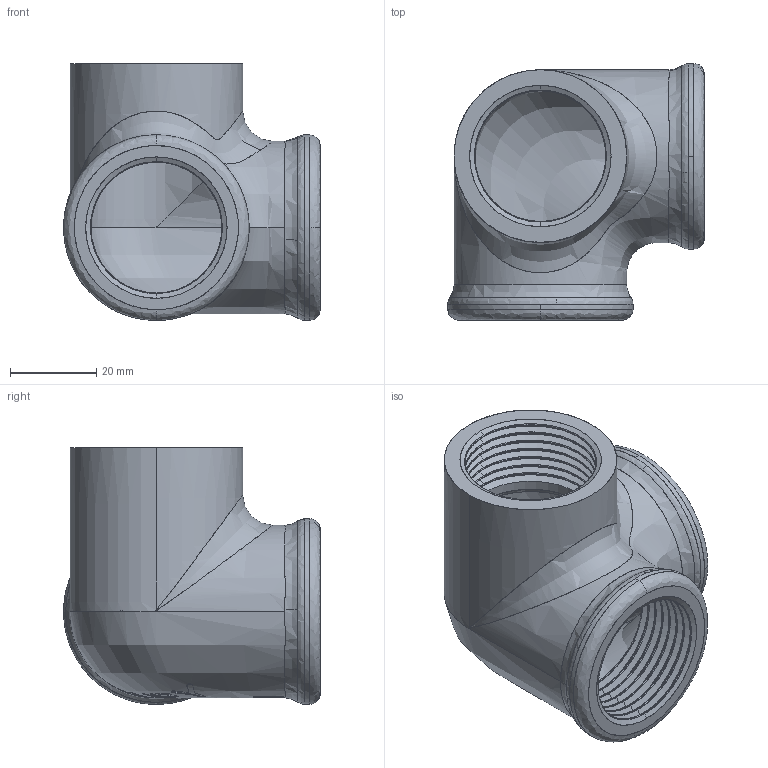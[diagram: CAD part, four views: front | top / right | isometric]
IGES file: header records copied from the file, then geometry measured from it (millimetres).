
Start section: SolidWorks IGES file using analytic representation for surfaces
Global section: file name: C:\Users\Joel Rosa\Desktop\Tubulação\12-15\12-05-007.IGS; native system: SolidWorks 2011; preprocessor: SolidWorks 2011; author: Joel Rosa; date: 130922.221650; units: millimetre
Bounding box: 59.5 x 59.5 x 59.5 mm (x, y, z)
Surface area: 25744 mm2 (no closed solid volume)
Topology: 0 solids, 0 shells, 366 faces, 4077 edges, 4075 vertices
Faces by surface type: bspline 258, revolution 108
